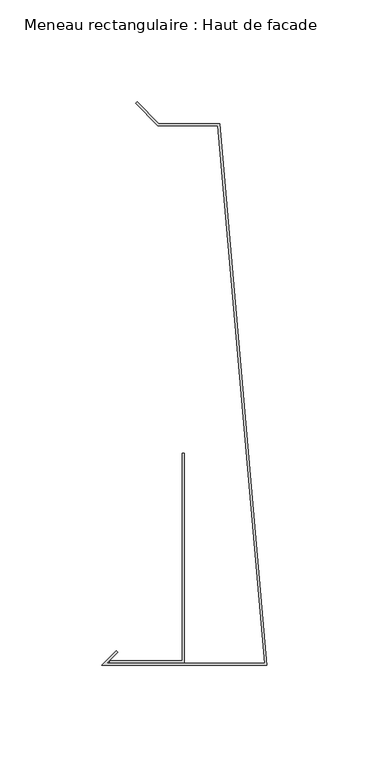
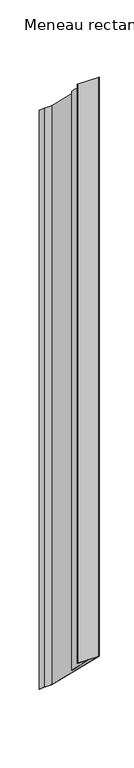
"""IFC4 building model written with IfcOpenShell, lengths in millimetres: member geometry, Meneau rectangulaire : Haut de facade."""

from ifc_helpers import new_model, si_unit, origin, place, context, project, spatial, faceted_brep, source, transform, mapped, element, save


def meneau_rectangulaire_haut_de_facade_a1bbe16c(model_context):
    return source(origin(), model_context, "Body", "Brep", [
        faceted_brep([(-1.0913085, -103.2, 103.2), (-24.0647895, 160.703755, -160.703755), (-24.0647895, 160.703755, -2458.8908456), (-1.0913085, -103.2, -2194.9870906), (-78.5857864, -103.2, 103.2), (-78.5857864, -103.2, -2194.9870906), (-73.2218254, -97.836039, 97.836039), (-73.2218254, -97.836039, -2200.3510516), (-73.9289322, -97.1289322, 97.1289322), (-73.9289322, -97.1289322, -2201.0581584), (-81.0, -104.2, 104.2), (-81.0, -104.2, -2193.9870906), (0.0, -104.2, 104.2), (0.0, -104.2, -2193.9870906), (-23.1484584, 161.703755, -161.703755), (-23.1484584, 161.703755, -2459.8908456), (-53.1484584, 161.703755, -161.703755), (-53.1484584, 161.703755, -2459.8908456), (-63.7550601, 172.3103567, -172.3103567), (-63.7550601, 172.3103567, -2470.4974473), (-64.4621669, 171.6032499, -171.6032499), (-64.4621669, 171.6032499, -2469.7903405), (-53.5626719, 160.703755, -160.703755), (-53.5626719, 160.703755, -2458.8908456)], [[[0, 1, 2, 3]], [[4, 0, 3, 5]], [[6, 4, 5, 7]], [[8, 6, 7, 9]], [[10, 8, 9, 11]], [[12, 10, 11, 13]], [[14, 12, 13, 15]], [[16, 14, 15, 17]], [[18, 16, 17, 19]], [[20, 18, 19, 21]], [[22, 20, 21, 23]], [[1, 22, 23, 2]], [[1, 0, 4, 6, 8, 10, 12, 14, 16, 18, 20, 22]], [[2, 23, 21, 19, 17, 15, 13, 11, 9, 7, 5, 3]]]),
        faceted_brep([(-40.5477541, -0.0384227, 0.0384227), (-40.5477541, -102.9846816, 102.9846816), (-40.5477541, -102.9846816, -2195.2024089), (-40.5477541, -0.0384227, -2298.1486679), (-41.5477541, -0.0384227, 0.0384227), (-41.5477541, -0.0384227, -2298.1486679), (-41.5477541, -101.9846816, 101.9846816), (-41.5477541, -101.9846816, -2196.2024089), (-77.0752814, -101.9846816, 101.9846816), (-77.0752814, -101.9846816, -2196.2024089), (-77.0752814, -102.9846816, 102.9846816), (-77.0752814, -102.9846816, -2195.2024089)], [[[0, 1, 2, 3]], [[4, 0, 3, 5]], [[6, 4, 5, 7]], [[8, 6, 7, 9]], [[10, 8, 9, 11]], [[1, 10, 11, 2]], [[1, 0, 4, 6, 8, 10]], [[2, 11, 9, 7, 5, 3]]]),
    ])


if __name__ == "__main__":
    model = new_model("IFC4")
    model_context = context("Model", 3, world=origin())
    ifc_project = project(units=[si_unit("LENGTHUNIT", "METRE", prefix="MILLI")], contexts=[model_context])
    site = spatial("IfcSite", under=ifc_project)
    building = spatial("IfcBuilding", under=site)
    placement = place(None, origin())
    meneau_rectangulaire_haut_de_facade_shape = meneau_rectangulaire_haut_de_facade_a1bbe16c(model_context)
    element("IfcMember", 1, ObjectType="Meneau rectangulaire : Haut de facade", at=placement, inside=building, context=model_context, shape_type="MappedRepresentation", body=[
        mapped(meneau_rectangulaire_haut_de_facade_shape, transform((0.0, 0.0, 0.0), x_axis=(1.0, 0.0, 0.0), y_axis=(0.0, 1.0, 0.0), z_axis=(0.0, 0.0, 1.0))),
    ])
    save(model, "model.ifc")
